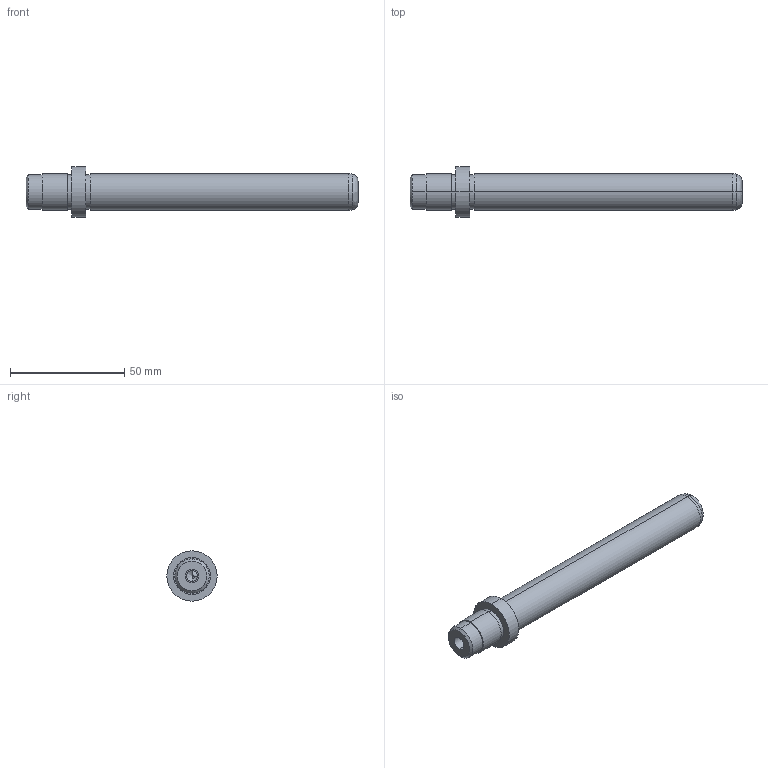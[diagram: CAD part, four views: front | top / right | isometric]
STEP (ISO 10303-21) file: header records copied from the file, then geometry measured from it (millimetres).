
FILE_DESCRIPTION( ( 'STEP AP203' ), '1' );
FILE_NAME( 'D:/Delta 3 D/D00/D00 - 16x125x20.step', '2003-01-02T06:33:42', ( ' ' ), ( ' ' ), 'XStep 1.0', ' ', ' ' );
FILE_SCHEMA( ( 'CONFIG_CONTROL_DESIGN' ) );
Length unit declared in the file: metre
Products named in the file (1): 1
Bounding box: 145 x 22 x 22 mm (x, y, z)
Volume: 28547.2 mm3; surface area: 9009.8 mm2
Topology: 1 solids, 1 shells, 39 faces, 78 edges, 48 vertices
Faces by surface type: revolution 28, bspline 11
Entity records: 1137 total; most frequent: CARTESIAN_POINT 277, DIRECTION 154, ORIENTED_EDGE 152, EDGE_CURVE 76, AXIS2_PLACEMENT_3D 49, EDGE_LOOP 48, VERTEX_POINT 48, CIRCLE 48
